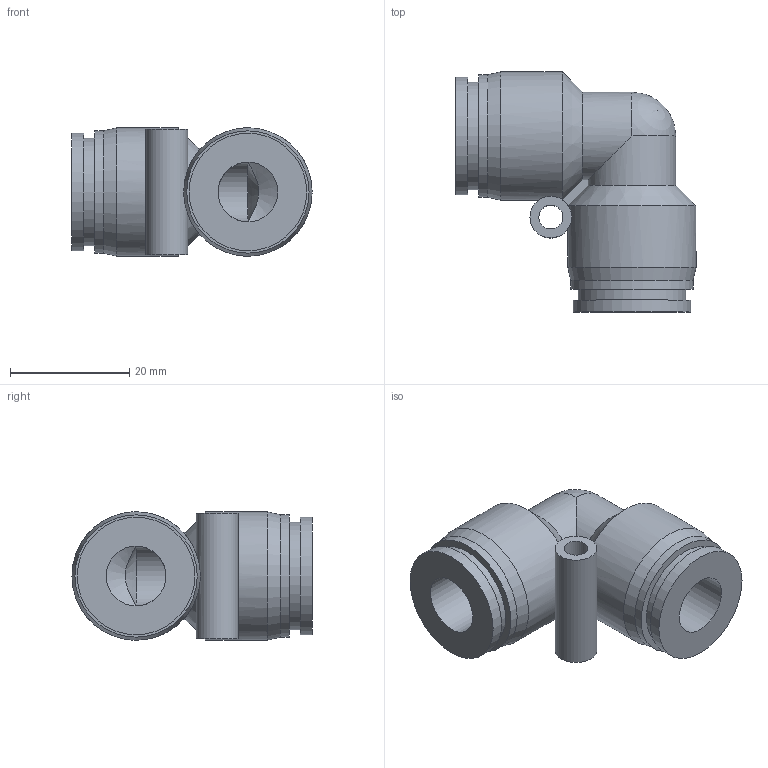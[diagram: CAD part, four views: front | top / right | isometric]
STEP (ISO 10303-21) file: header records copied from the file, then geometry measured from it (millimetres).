
FILE_DESCRIPTION((''),'2;1');
FILE_NAME('S:\UTecnico\ArchivioUT\Speciali Clienti\Speciali KONFIT\Plastica\RP\RP 54\RP540012.stp','2012-05-15T09:01:32',('UT5'),(''),'Autodesk Inventor 2012','Autodesk Inventor 2012','');
FILE_SCHEMA(('AUTOMOTIVE_DESIGN { 1 0 10303 214 1 1 1 1 }'));
Length unit declared in the file: millimetre
Products named in the file (1): RP540012
Bounding box: 40.25 x 40.25 x 21.5 mm (x, y, z)
Volume: 12617.3 mm3; surface area: 6803 mm2
Topology: 1 solids, 1 shells, 31 faces, 73 edges, 47 vertices
Faces by surface type: cylinder 14, plane 10, cone 6, sphere 1
Full cylindrical faces by diameter (mm): 4 x1, 7 x1, 10 x2, 18 x2, 19.7 x2, 20.5 x2, 21.5 x2
Entity records: 901 total; most frequent: CARTESIAN_POINT 238, DIRECTION 134, ORIENTED_EDGE 96, AXIS2_PLACEMENT_3D 65, EDGE_LOOP 54, EDGE_CURVE 48, VERTEX_POINT 38, FACE_OUTER_BOUND 31
